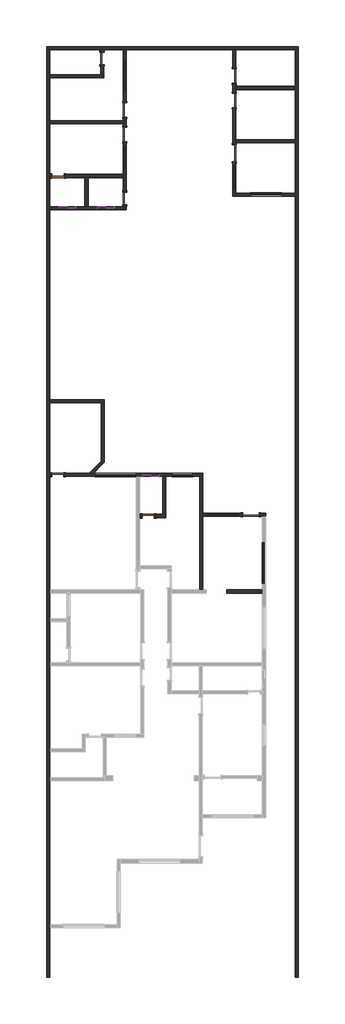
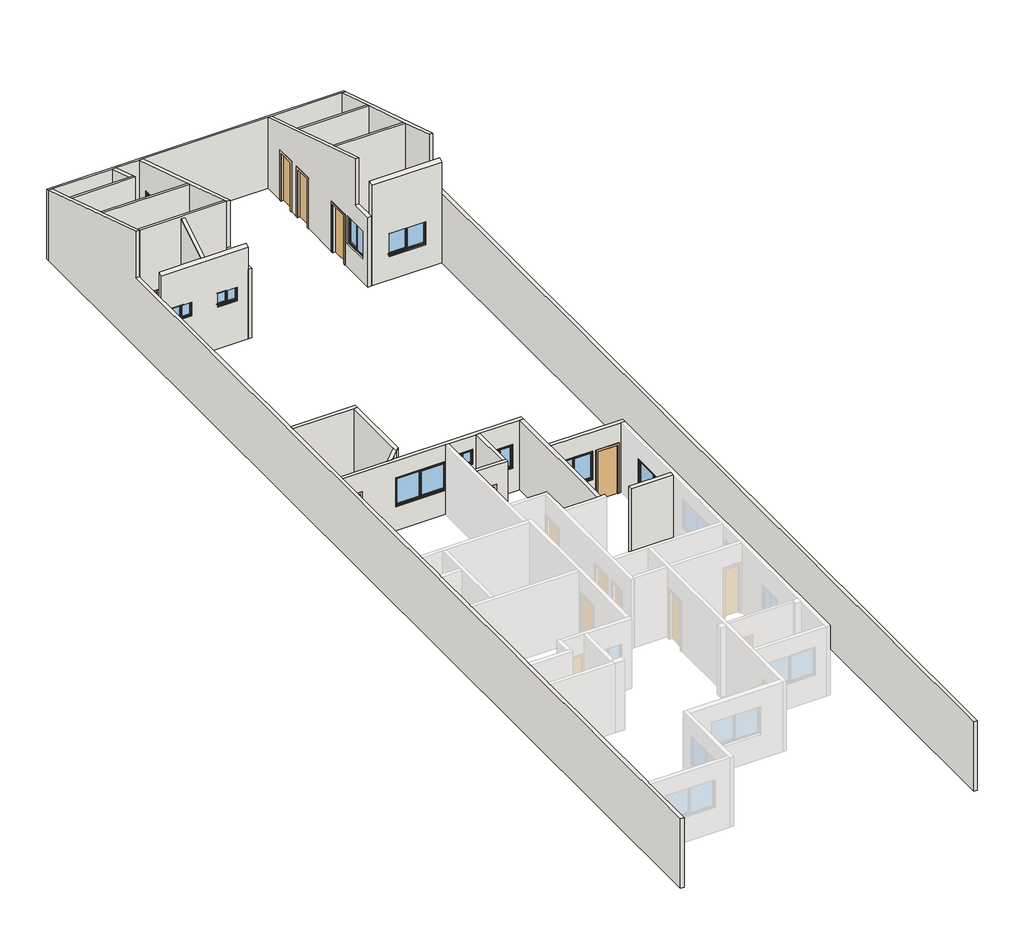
# One storey, part 2 of 2: 23 walls, 11 doors, 11 windows.
"""IFC4 building model written with IfcOpenShell, lengths in millimetres."""

from ifc_helpers import new_model, si_unit, frame, origin, origin_with_axes, place, context, project, spatial, polyline, outline, extrude, faceted_brep, transform, mapped, element, save
from components import door_0_60x2_10_8e608217, door_0_60x2_10_a66e64d3, door_0_70x2_10_1d7fae46, door_0_70x2_10_6c6cf384, door_0_80x2_10_8bd717ab, item_01_2f_janela_de_correr_aluminium_b1_a633d3a6, item_01_2f_janela_de_correr_aluminium_j1_3e6ac885, item_01_2f_janela_de_correr_aluminium_j3_e0c3c169, item_01_2f_janela_de_correr_aluminium_j4_4bfe350a, item_01_2f_janela_de_correr_aluminium_j7_2dec2369, item_01_2f_janela_de_correr_aluminium_j8_21b325f3, item_01_2f_janela_de_correr_aluminium_j9_3c347c91

model = new_model("IFC4")

# Units and contexts
model_context = context("Model", 3, world=origin())
ifc_project = project(units=[si_unit("LENGTHUNIT", "METRE", prefix="MILLI")], contexts=[model_context])

# Site, building, storey
site = spatial("IfcSite", under=ifc_project)
building = spatial("IfcBuilding", under=site)
storey = spatial("IfcBuildingStorey", under=building, Name="Nível 1", Elevation=0.0)

# Doors
placement = place(None, origin())
door_0_60x2_10_shape = door_0_60x2_10_8e608217(model_context)
element("IfcDoor", 1, ObjectType="M_Folha única : 0.60X2.10", at=placement, inside=storey, context=model_context, shape_type="MappedRepresentation", body=[
    mapped(door_0_60x2_10_shape, transform((-1047.7973629, 534.7160701, 0.0), x_axis=(-1.0, 0.0, 0.0), y_axis=(0.0, -1.0, 0.0), z_axis=(0.0, 0.0, 1.0))),
])
element("IfcDoor", 2, ObjectType="M_Folha única : 0.60X2.10", at=placement, inside=storey, context=model_context, shape_type="MappedRepresentation", body=[
    mapped(door_0_60x2_10_shape, transform((-5407.7973629, 2514.7160701, 0.0), x_axis=(-1.0, 0.0, 0.0), y_axis=(0.0, -1.0, 0.0), z_axis=(0.0, 0.0, 1.0))),
])
element("IfcDoor", 3, ObjectType="M_Folha única : 0.60X2.10", at=placement, inside=storey, context=model_context, shape_type="MappedRepresentation", body=[
    mapped(door_0_60x2_10_shape, transform((-2172.7973629, 15839.7160701, 0.0), x_axis=(0.0, -1.0, 0.0), y_axis=(1.0, 0.0, 0.0), z_axis=(0.0, 0.0, 1.0))),
])
door_0_60x2_10_2_shape = door_0_60x2_10_a66e64d3(model_context)
element("IfcDoor", 4, ObjectType="M_Folha única : 0.60X2.10", at=placement, inside=storey, context=model_context, shape_type="MappedRepresentation", body=[
    mapped(door_0_60x2_10_2_shape, transform((-5392.7973629, 16914.7160701, 0.0), x_axis=(-1.0, 0.0, 0.0), y_axis=(0.0, -1.0, 0.0), z_axis=(0.0, 0.0, 1.0))),
])
element("IfcDoor", 5, ObjectType="M_Folha única : 0.60X2.10", at=placement, inside=storey, context=model_context, shape_type="MappedRepresentation", body=[
    mapped(door_0_60x2_10_2_shape, transform((-3272.7973629, 22574.7160701, 0.0), x_axis=(0.0, 1.0, 0.0), y_axis=(-1.0, 0.0, 0.0), z_axis=(0.0, 0.0, 1.0))),
])
door_0_70x2_10_shape = door_0_70x2_10_1d7fae46(model_context)
element("IfcDoor", 6, ObjectType="M_Folha única : 0.70X2.10", at=placement, inside=storey, context=model_context, shape_type="MappedRepresentation", body=[
    mapped(door_0_70x2_10_shape, transform((3087.2026371, 21719.7160701, 0.0), x_axis=(0.0, -1.0, 0.0), y_axis=(1.0, 0.0, 0.0), z_axis=(0.0, 0.0, 1.0))),
])
element("IfcDoor", 7, ObjectType="M_Folha única : 0.70X2.10", at=placement, inside=storey, context=model_context, shape_type="MappedRepresentation", body=[
    mapped(door_0_70x2_10_shape, transform((-2172.7973629, 18919.7160701, 0.0), x_axis=(0.0, 1.0, 0.0), y_axis=(-1.0, 0.0, 0.0), z_axis=(0.0, 0.0, 1.0))),
])
door_0_70x2_10_2_shape = door_0_70x2_10_6c6cf384(model_context)
element("IfcDoor", 8, ObjectType="M_Folha única : 0.70X2.10", at=placement, inside=storey, context=model_context, shape_type="MappedRepresentation", body=[
    mapped(door_0_70x2_10_2_shape, transform((3087.2026371, 20549.7160701, 0.0), x_axis=(0.0, 1.0, 0.0), y_axis=(-1.0, 0.0, 0.0), z_axis=(0.0, 0.0, 1.0))),
])
element("IfcDoor", 9, ObjectType="M_Folha única : 0.70X2.10", at=placement, inside=storey, context=model_context, shape_type="MappedRepresentation", body=[
    mapped(door_0_70x2_10_2_shape, transform((-2172.7973629, 20089.7160701, 0.0), x_axis=(0.0, -1.0, 0.0), y_axis=(1.0, 0.0, 0.0), z_axis=(0.0, 0.0, 1.0))),
])
door_0_80x2_10_shape = door_0_80x2_10_8bd717ab(model_context)
element("IfcDoor", 10, ObjectType="M_Folha única : 0.80X2.10", at=placement, inside=storey, context=model_context, shape_type="MappedRepresentation", body=[
    mapped(door_0_80x2_10_shape, transform((3087.2026371, 18009.7160701, 0.0), x_axis=(0.0, 1.0, 0.0), y_axis=(-1.0, 0.0, 0.0), z_axis=(0.0, 0.0, 1.0))),
])
element("IfcDoor", 11, ObjectType="M_Folha única : 0.80X2.10", at=placement, inside=storey, context=model_context, shape_type="MappedRepresentation", body=[
    mapped(door_0_80x2_10_shape, transform((3892.2026371, 594.7160701, 0.0), x_axis=(1.0, 0.0, 0.0), y_axis=(0.0, 1.0, 0.0), z_axis=(0.0, 0.0, 1.0))),
])

# Walls
element("IfcWall", 12, ObjectType="PAREDE ALVENARIA", at=placement, inside=storey, context=model_context, shape_type="Brep", body=[
    faceted_brep([(-2247.7973629, 19739.7160701, 0.0), (-2247.7973629, 19579.7160701, 0.0), (-2247.7973629, 19429.7160701, 0.0), (-2247.7973629, 19269.7160701, 0.0), (-2247.7973629, 19269.7160701, 2100.0), (-2247.7973629, 18569.7160701, 2100.0), (-2247.7973629, 18569.7160701, 0.0), (-2247.7973629, 16989.7160701, 0.0), (-2247.7973629, 16839.7160701, 0.0), (-2247.7973629, 16139.7160701, 0.0), (-2247.7973629, 16139.7160701, 2100.0), (-2247.7973629, 15539.7160701, 2100.0), (-2247.7973629, 15539.7160701, 0.0), (-2247.7973629, 15439.7160701, 0.0), (-2247.7973629, 15289.7160701, 0.0), (-2247.7973629, 15289.7160701, 3000.0), (-2247.7973629, 16839.7160701, 3000.0), (-2247.7973629, 16839.7160701, 5000.0), (-2247.7973629, 16989.7160701, 4952.4564184), (-2247.7973629, 19429.7160701, 4179.0808241), (-2247.7973629, 19579.7160701, 4131.5372425), (-2247.7973629, 22999.7160701, 3047.5435816), (-2247.7973629, 22999.7160701, 0.0), (-2247.7973629, 20439.7160701, 0.0), (-2247.7973629, 20439.7160701, 2100.0), (-2247.7973629, 19739.7160701, 2100.0), (-2247.7973629, 22507.2160701, 1000.0), (-2247.7973629, 22507.2160701, 2000.0), (-2247.7973629, 21007.2160701, 2000.0), (-2247.7973629, 21007.2160701, 1000.0), (-2247.7973629, 18329.7160701, 1000.0), (-2247.7973629, 18329.7160701, 2000.0), (-2247.7973629, 17229.7160701, 2000.0), (-2247.7973629, 17229.7160701, 1000.0), (-2097.7973629, 19269.7160701, 2100.0), (-2097.7973629, 19269.7160701, 0.0), (-2097.7973629, 19739.7160701, 0.0), (-2097.7973629, 19739.7160701, 2100.0), (-2097.7973629, 20439.7160701, 2100.0), (-2097.7973629, 20439.7160701, 0.0), (-2097.7973629, 22999.7160701, 0.0), (-2097.7973629, 22999.7160701, 3047.5435816), (-2097.7973629, 16839.7160701, 5000.0), (-2097.7973629, 16839.7160701, 3000.0), (-2097.7973629, 15289.7160701, 3000.0), (-2097.7973629, 15289.7160701, 0.0), (-2097.7973629, 15539.7160701, 0.0), (-2097.7973629, 15539.7160701, 2100.0), (-2097.7973629, 16139.7160701, 2100.0), (-2097.7973629, 16139.7160701, 0.0), (-2097.7973629, 18569.7160701, 0.0), (-2097.7973629, 18569.7160701, 2100.0), (-2097.7973629, 22507.2160701, 1000.0), (-2097.7973629, 21007.2160701, 1000.0), (-2097.7973629, 21007.2160701, 2000.0), (-2097.7973629, 22507.2160701, 2000.0), (-2097.7973629, 18329.7160701, 1000.0), (-2097.7973629, 17229.7160701, 1000.0), (-2097.7973629, 17229.7160701, 2000.0), (-2097.7973629, 18329.7160701, 2000.0)], [[[0, 1, 2, 3, 4, 5, 6, 7, 8, 9, 10, 11, 12, 13, 14, 15, 16, 17, 18, 19, 20, 21, 22, 23, 24, 25], [26, 27, 28, 29], [30, 31, 32, 33]], [[34, 35, 36, 37, 38, 39, 40, 41, 42, 43, 44, 45, 46, 47, 48, 49, 50, 51], [52, 53, 54, 55], [56, 57, 58, 59]], [[14, 13, 12, 46, 45]], [[23, 22, 40, 39]], [[50, 49, 9, 8, 7, 6]], [[36, 35, 3, 2, 1, 0]], [[15, 14, 45, 44]], [[47, 46, 12, 11]], [[48, 47, 11, 10]], [[49, 48, 10, 9]], [[37, 36, 0, 25]], [[38, 37, 25, 24]], [[39, 38, 24, 23]], [[4, 3, 35, 34]], [[5, 4, 34, 51]], [[6, 5, 51, 50]], [[27, 26, 52, 55]], [[28, 27, 55, 54]], [[29, 28, 54, 53]], [[26, 29, 53, 52]], [[31, 30, 56, 59]], [[32, 31, 59, 58]], [[33, 32, 58, 57]], [[30, 33, 57, 56]], [[22, 21, 41, 40]], [[16, 15, 44, 43]], [[16, 43, 42, 17]], [[21, 20, 19, 18, 17, 42, 41]]]),
])
element("IfcWall", 13, ObjectType="PAREDE ALVENARIA", at=placement, inside=storey, context=model_context, shape_type="Brep", body=[
    faceted_brep([(-2247.7973629, 15439.7160701, 0.0), (-3947.7973629, 15439.7160701, 0.0), (-4097.7973629, 15439.7160701, 0.0), (-5797.7973629, 15439.7160701, 0.0), (-5797.7973629, 15439.7160701, 4041.7674419), (-4097.7973629, 15439.7160701, 4041.7674419), (-3947.7973629, 15439.7160701, 4041.7674419), (-2247.7973629, 15439.7160701, 4041.7674419), (-2697.7973629, 15439.7160701, 1800.0), (-2697.7973629, 15439.7160701, 2400.0), (-3497.7973629, 15439.7160701, 2400.0), (-3497.7973629, 15439.7160701, 1800.0), (-4547.7973629, 15439.7160701, 1800.0), (-4547.7973629, 15439.7160701, 2400.0), (-5347.7973629, 15439.7160701, 2400.0), (-5347.7973629, 15439.7160701, 1800.0), (-2247.7973629, 15289.7160701, 0.0), (-2247.7973629, 15289.7160701, 3000.0), (-2247.7973629, 15289.7160701, 3949.8139535), (-5797.7973629, 15289.7160701, 3949.8139535), (-5797.7973629, 15289.7160701, 0.0), (-2697.7973629, 15289.7160701, 1800.0), (-3497.7973629, 15289.7160701, 1800.0), (-3497.7973629, 15289.7160701, 2400.0), (-2697.7973629, 15289.7160701, 2400.0), (-4547.7973629, 15289.7160701, 1800.0), (-5347.7973629, 15289.7160701, 1800.0), (-5347.7973629, 15289.7160701, 2400.0), (-4547.7973629, 15289.7160701, 2400.0)], [[[0, 1, 2, 3, 4, 5, 6, 7], [8, 9, 10, 11], [12, 13, 14, 15]], [[16, 17, 18, 19, 20], [21, 22, 23, 24], [25, 26, 27, 28]], [[3, 2, 1, 0, 16, 20]], [[0, 7, 18, 17, 16]], [[4, 3, 20, 19]], [[9, 8, 21, 24]], [[10, 9, 24, 23]], [[11, 10, 23, 22]], [[8, 11, 22, 21]], [[13, 12, 25, 28]], [[14, 13, 28, 27]], [[15, 14, 27, 26]], [[12, 15, 26, 25]], [[7, 6, 5, 4, 19, 18]]]),
])
element("IfcWall", 14, ObjectType="PAREDE ALVENARIA", at=placement, inside=storey, context=model_context, shape_type="Brep", body=[
    faceted_brep([(-5792.7973629, 16839.7160701, 0.0), (-5692.7973629, 16839.7160701, 0.0), (-5692.7973629, 16839.7160701, 2100.0), (-5092.7973629, 16839.7160701, 2100.0), (-5092.7973629, 16839.7160701, 0.0), (-4097.7973629, 16839.7160701, 0.0), (-3947.7973629, 16839.7160701, 0.0), (-2247.7973629, 16839.7160701, 0.0), (-2247.7973629, 16839.7160701, 3000.0), (-2247.7973629, 16839.7160701, 5000.0), (-5792.7973629, 16839.7160701, 5000.0), (-5692.7973629, 16989.7160701, 2100.0), (-5692.7973629, 16989.7160701, 0.0), (-5792.7973629, 16989.7160701, 0.0), (-5792.7973629, 16989.7160701, 4952.4564184), (-2247.7973629, 16989.7160701, 4952.4564184), (-2247.7973629, 16989.7160701, 0.0), (-5092.7973629, 16989.7160701, 0.0), (-5092.7973629, 16989.7160701, 2100.0)], [[[0, 1, 2, 3, 4, 5, 6, 7, 8, 9, 10]], [[11, 12, 13, 14, 15, 16, 17, 18]], [[17, 16, 7, 6, 5, 4]], [[13, 12, 1, 0]], [[0, 10, 14, 13]], [[9, 8, 7, 16, 15]], [[2, 1, 12, 11]], [[3, 2, 11, 18]], [[4, 3, 18, 17]], [[10, 9, 15, 14]]]),
])
element("IfcWall", 15, ObjectType="PAREDE ALVENARIA", at=placement, inside=storey, context=model_context, shape_type="SweptSolid", body=[
    extrude(outline(polyline([(15439.7160701, 0.0), (15439.7160701, 4041.7674419), (16839.7160701, 4900.0), (16839.7160701, 0.0), (15439.7160701, 0.0)])), frame((-4097.7973629, 0.0, 0.0), z_axis=(1.0, 0.0, 0.0), x_axis=(0.0, 1.0, 0.0)), (0.0, 0.0, 1.0), 150.0),
])
element("IfcWall", 16, ObjectType="PAREDE ALVENARIA", at=placement, inside=storey, context=model_context, shape_type="SweptSolid", body=[
    extrude(outline(polyline([(19429.7160701, 0.0), (19429.7160701, 4179.0808241), (19579.7160701, 4131.5372425), (19579.7160701, 0.0), (19429.7160701, 0.0)])), frame((-5797.7973629, 0.0, 0.0), z_axis=(1.0, 0.0, 0.0), x_axis=(0.0, 1.0, 0.0)), (0.0, 0.0, 1.0), 3550.0),
])
element("IfcWall", 17, ObjectType="PAREDE ALVENARIA", at=placement, inside=storey, context=model_context, shape_type="Brep", body=[
    faceted_brep([(-5797.7973629, 21639.7160701, 0.0), (-3197.7973629, 21639.7160701, 0.0), (-3197.7973629, 21639.7160701, 3478.6053883), (-5797.7973629, 21639.7160701, 3478.6053883), (-5797.7973629, 21789.7160701, 0.0), (-5797.7973629, 21789.7160701, 3431.0618067), (-3347.7973629, 21789.7160701, 3431.0618067), (-3197.7973629, 21789.7160701, 3431.0618067), (-3197.7973629, 21789.7160701, 0.0), (-3347.7973629, 21789.7160701, 0.0)], [[[0, 1, 2, 3]], [[4, 5, 6, 7, 8, 9]], [[1, 0, 4, 9, 8]], [[2, 1, 8, 7]], [[0, 3, 5, 4]], [[3, 2, 7, 6, 5]]]),
])
element("IfcWall", 18, ObjectType="PAREDE ALVENARIA", at=placement, inside=storey, context=model_context, shape_type="SweptSolid", body=[
    extrude(outline(polyline([(22999.7160701, 0.0), (22874.7160701, 0.0), (22874.7160701, 2100.0), (22274.7160701, 2100.0), (22274.7160701, 0.0), (21789.7160701, 0.0), (21789.7160701, 3431.0618067), (22999.7160701, 3047.5435816), (22999.7160701, 0.0)])), frame((-3347.7973629, 0.0, 0.0), z_axis=(1.0, 0.0, 0.0), x_axis=(0.0, 1.0, 0.0)), (0.0, 0.0, 1.0), 150.0),
])
element("IfcWall", 19, ObjectType="PAREDE ALVENARIA", at=placement, inside=storey, context=model_context, shape_type="Brep", body=[
    faceted_brep([(3012.2026371, 21369.7160701, 0.0), (3012.2026371, 20899.7160701, 0.0), (3012.2026371, 20899.7160701, 2100.0), (3012.2026371, 20199.7160701, 2100.0), (3012.2026371, 20199.7160701, 0.0), (3012.2026371, 18409.7160701, 0.0), (3012.2026371, 18409.7160701, 2100.0), (3012.2026371, 17609.7160701, 2100.0), (3012.2026371, 17609.7160701, 0.0), (3012.2026371, 15939.7160701, 0.0), (3012.2026371, 15939.7160701, 3000.0), (3012.2026371, 16839.7160701, 3000.0), (3012.2026371, 16839.7160701, 5000.0), (3012.2026371, 22999.7160701, 3047.5435816), (3012.2026371, 22999.7160701, 0.0), (3012.2026371, 22069.7160701, 0.0), (3012.2026371, 22069.7160701, 2100.0), (3012.2026371, 21369.7160701, 2100.0), (3012.2026371, 16299.7160701, 1000.0), (3012.2026371, 17399.7160701, 1000.0), (3012.2026371, 17399.7160701, 2200.0), (3012.2026371, 16299.7160701, 2200.0), (3162.2026371, 20899.7160701, 2100.0), (3162.2026371, 20899.7160701, 0.0), (3162.2026371, 21079.7160701, 0.0), (3162.2026371, 21229.7160701, 0.0), (3162.2026371, 21369.7160701, 0.0), (3162.2026371, 21369.7160701, 2100.0), (3162.2026371, 22069.7160701, 2100.0), (3162.2026371, 22069.7160701, 0.0), (3162.2026371, 22999.7160701, 0.0), (3162.2026371, 22999.7160701, 3047.5435816), (3162.2026371, 21229.7160701, 3608.5578447), (3162.2026371, 21079.7160701, 3656.1014263), (3162.2026371, 18659.7160701, 4423.1378764), (3162.2026371, 18509.7160701, 4470.681458), (3162.2026371, 16839.7160701, 5000.0), (3162.2026371, 16839.7160701, 3000.0), (3162.2026371, 15939.7160701, 3000.0), (3162.2026371, 15939.7160701, 0.0), (3162.2026371, 16089.7160701, 0.0), (3162.2026371, 17609.7160701, 0.0), (3162.2026371, 17609.7160701, 2100.0), (3162.2026371, 18409.7160701, 2100.0), (3162.2026371, 18409.7160701, 0.0), (3162.2026371, 18509.7160701, 0.0), (3162.2026371, 18659.7160701, 0.0), (3162.2026371, 20199.7160701, 0.0), (3162.2026371, 20199.7160701, 2100.0), (3162.2026371, 16299.7160701, 1000.0), (3162.2026371, 16299.7160701, 2200.0), (3162.2026371, 17399.7160701, 2200.0), (3162.2026371, 17399.7160701, 1000.0)], [[[0, 1, 2, 3, 4, 5, 6, 7, 8, 9, 10, 11, 12, 13, 14, 15, 16, 17], [18, 19, 20, 21]], [[22, 23, 24, 25, 26, 27, 28, 29, 30, 31, 32, 33, 34, 35, 36, 37, 38, 39, 40, 41, 42, 43, 44, 45, 46, 47, 48], [49, 50, 51, 52]], [[41, 40, 39, 9, 8]], [[15, 14, 30, 29]], [[47, 46, 45, 44, 5, 4]], [[26, 25, 24, 23, 1, 0]], [[10, 9, 39, 38]], [[6, 5, 44, 43]], [[7, 6, 43, 42]], [[8, 7, 42, 41]], [[27, 26, 0, 17]], [[28, 27, 17, 16]], [[29, 28, 16, 15]], [[2, 1, 23, 22]], [[3, 2, 22, 48]], [[4, 3, 48, 47]], [[50, 49, 18, 21]], [[51, 50, 21, 20]], [[52, 51, 20, 19]], [[49, 52, 19, 18]], [[14, 13, 31, 30]], [[11, 10, 38, 37]], [[11, 37, 36, 12]], [[13, 12, 36, 35, 34, 33, 32, 31]]]),
])
element("IfcWall", 20, ObjectType="PAREDE ALVENARIA", at=placement, inside=storey, context=model_context, shape_type="Brep", body=[
    faceted_brep([(3162.2026371, 15939.7160701, 0.0), (6032.2026371, 15939.7160701, 0.0), (6032.2026371, 15939.7160701, 4348.2790698), (3162.2026371, 15939.7160701, 4348.2790698), (3162.2026371, 15939.7160701, 3000.0), (5384.7026371, 15939.7160701, 1000.0), (3884.7026371, 15939.7160701, 1000.0), (3884.7026371, 15939.7160701, 2000.0), (5384.7026371, 15939.7160701, 2000.0), (3162.2026371, 16089.7160701, 0.0), (3162.2026371, 16089.7160701, 4440.2325581), (6032.2026371, 16089.7160701, 4440.2325581), (6032.2026371, 16089.7160701, 0.0), (5384.7026371, 16089.7160701, 1000.0), (5384.7026371, 16089.7160701, 2000.0), (3884.7026371, 16089.7160701, 2000.0), (3884.7026371, 16089.7160701, 1000.0)], [[[0, 1, 2, 3, 4], [5, 6, 7, 8]], [[9, 10, 11, 12], [13, 14, 15, 16]], [[1, 0, 9, 12]], [[0, 4, 3, 10, 9]], [[14, 13, 5, 8]], [[15, 14, 8, 7]], [[16, 15, 7, 6]], [[13, 16, 6, 5]], [[2, 1, 12, 11]], [[3, 2, 11, 10]]]),
])
element("IfcWall", 21, ObjectType="PAREDE ALVENARIA", at=placement, inside=storey, context=model_context, shape_type="SweptSolid", body=[
    extrude(outline(polyline([(18659.7160701, 4423.1378764), (18659.7160701, 0.0), (18509.7160701, 0.0), (18509.7160701, 4470.681458), (18659.7160701, 4423.1378764)])), frame((3162.2026371, 0.0, 0.0), z_axis=(1.0, 0.0, 0.0), x_axis=(0.0, 1.0, 0.0)), (0.0, 0.0, 1.0), 2870.0),
])
element("IfcWall", 22, ObjectType="PAREDE ALVENARIA", at=placement, inside=storey, context=model_context, shape_type="SweptSolid", body=[
    extrude(outline(polyline([(21229.7160701, 3608.5578447), (21229.7160701, 0.0), (21079.7160701, 0.0), (21079.7160701, 3656.1014263), (21229.7160701, 3608.5578447)])), frame((3162.2026371, 0.0, 0.0), z_axis=(1.0, 0.0, 0.0), x_axis=(0.0, 1.0, 0.0)), (0.0, 0.0, 1.0), 2870.0),
])
element("IfcWall", 23, ObjectType="PAREDE ALVENARIA", at=placement, inside=storey, context=model_context, shape_type="Brep", body=[
    faceted_brep([(-5797.7973629, 5989.7160701, 0.0), (-3307.7973629, 5989.7160701, 0.0), (-3157.7973629, 5989.7160701, 0.0), (-3157.7973629, 5989.7160701, 3000.0), (-3307.7973629, 5989.7160701, 3000.0), (-5797.7973629, 5989.7160701, 3000.0), (-5797.7973629, 6139.7160701, 0.0), (-5797.7973629, 6139.7160701, 3000.0), (-3157.7973629, 6139.7160701, 3000.0), (-3157.7973629, 6139.7160701, 0.0)], [[[0, 1, 2, 3, 4, 5]], [[6, 7, 8, 9]], [[2, 1, 0, 6, 9]], [[5, 4, 3, 8, 7]], [[3, 2, 9, 8]], [[0, 5, 7, 6]]]),
])
element("IfcWall", 24, ObjectType="PAREDE ALVENARIA", at=placement, inside=storey, context=model_context, shape_type="Brep", body=[
    faceted_brep([(-3307.7973629, 5989.7160701, 0.0), (-3307.7973629, 3179.7160701, 0.0), (-3307.7973629, 2967.5840358, 0.0), (-3307.7973629, 2967.5840358, 3000.0), (-3307.7973629, 3179.7160701, 3000.0), (-3307.7973629, 5989.7160701, 3000.0), (-3157.7973629, 5989.7160701, 0.0), (-3157.7973629, 5989.7160701, 3000.0), (-3157.7973629, 3117.5840358, 3000.0), (-3157.7973629, 3117.5840358, 0.0)], [[[0, 1, 2, 3, 4, 5]], [[6, 7, 8, 9]], [[2, 1, 0, 6, 9]], [[5, 4, 3, 8, 7]], [[0, 5, 7, 6]], [[3, 2, 9, 8]]]),
])
element("IfcWall", 25, ObjectType="PAREDE ALVENARIA", at=placement, inside=storey, context=model_context, shape_type="SweptSolid", body=[
    extrude(outline(polyline([(-3897.7973629, 2589.7160701), (-3307.7973629, 3179.7160701), (-3307.7973629, 2967.5840358), (-3685.6653285, 2589.7160701), (-3897.7973629, 2589.7160701)])), origin_with_axes(), (0.0, 0.0, 1.0), 3000.0),
])
element("IfcWall", 26, ObjectType="PAREDE ALVENARIA", at=placement, inside=storey, context=model_context, shape_type="Brep", body=[
    faceted_brep([(-5797.7973629, 2439.7160701, 0.0), (-5707.7973629, 2439.7160701, 0.0), (-5707.7973629, 2439.7160701, 2100.0), (-5107.7973629, 2439.7160701, 2100.0), (-5107.7973629, 2439.7160701, 0.0), (-1617.7973629, 2439.7160701, 0.0), (-1467.7973629, 2439.7160701, 0.0), (-357.7973629, 2439.7160701, 0.0), (-207.7973629, 2439.7160701, 0.0), (1422.2026371, 2439.7160701, 0.0), (1572.2026371, 2439.7160701, 0.0), (1572.2026371, 2439.7160701, 3000.0), (1422.2026371, 2439.7160701, 3000.0), (-207.7973629, 2439.7160701, 3000.0), (-357.7973629, 2439.7160701, 3000.0), (-1467.7973629, 2439.7160701, 3000.0), (-1617.7973629, 2439.7160701, 3000.0), (-5797.7973629, 2439.7160701, 3000.0), (-3617.7973629, 2439.7160701, 1060.0), (-3617.7973629, 2439.7160701, 2260.0), (-1617.7973629, 2439.7160701, 2260.0), (-1617.7973629, 2439.7160701, 1060.0), (107.2026371, 2439.7160701, 1040.0), (107.2026371, 2439.7160701, 2040.0), (1107.2026371, 2439.7160701, 2040.0), (1107.2026371, 2439.7160701, 1040.0), (-1312.7973629, 2439.7160701, 1800.0), (-1312.7973629, 2439.7160701, 2400.0), (-512.7973629, 2439.7160701, 2400.0), (-512.7973629, 2439.7160701, 1800.0), (-5707.7973629, 2589.7160701, 2100.0), (-5707.7973629, 2589.7160701, 0.0), (-5797.7973629, 2589.7160701, 0.0), (-5797.7973629, 2589.7160701, 3000.0), (-3897.7973629, 2589.7160701, 3000.0), (-3685.6653285, 2589.7160701, 3000.0), (1572.2026371, 2589.7160701, 3000.0), (1572.2026371, 2589.7160701, 0.0), (-3685.6653285, 2589.7160701, 0.0), (-3897.7973629, 2589.7160701, 0.0), (-5107.7973629, 2589.7160701, 0.0), (-5107.7973629, 2589.7160701, 2100.0), (-3617.7973629, 2589.7160701, 1060.0), (-1617.7973629, 2589.7160701, 1060.0), (-1617.7973629, 2589.7160701, 2260.0), (-3617.7973629, 2589.7160701, 2260.0), (107.2026371, 2589.7160701, 1040.0), (1107.2026371, 2589.7160701, 1040.0), (1107.2026371, 2589.7160701, 2040.0), (107.2026371, 2589.7160701, 2040.0), (-1312.7973629, 2589.7160701, 1800.0), (-512.7973629, 2589.7160701, 1800.0), (-512.7973629, 2589.7160701, 2400.0), (-1312.7973629, 2589.7160701, 2400.0)], [[[0, 1, 2, 3, 4, 5, 6, 7, 8, 9, 10, 11, 12, 13, 14, 15, 16, 17], [18, 19, 20, 21], [22, 23, 24, 25], [26, 27, 28, 29]], [[30, 31, 32, 33, 34, 35, 36, 37, 38, 39, 40, 41], [42, 43, 44, 45], [46, 47, 48, 49], [50, 51, 52, 53]], [[32, 31, 1, 0]], [[40, 39, 38, 37, 10, 9, 8, 7, 6, 5, 4]], [[17, 16, 15, 14, 13, 12, 11, 36, 35, 34, 33]], [[11, 10, 37, 36]], [[2, 1, 31, 30]], [[3, 2, 30, 41]], [[4, 3, 41, 40]], [[19, 18, 42, 45]], [[20, 19, 45, 44]], [[21, 20, 44, 43]], [[18, 21, 43, 42]], [[23, 22, 46, 49]], [[24, 23, 49, 48]], [[25, 24, 48, 47]], [[22, 25, 47, 46]], [[0, 17, 33, 32]], [[27, 26, 50, 53]], [[28, 27, 53, 52]], [[29, 28, 52, 51]], [[26, 29, 51, 50]]]),
])
element("IfcWall", 27, ObjectType="PAREDE ALVENARIA", at=placement, inside=storey, context=model_context, shape_type="Brep", body=[
    faceted_brep([(1422.2026371, 2439.7160701, 0.0), (1422.2026371, -3030.2839299, 0.0), (1422.2026371, -3030.2839299, 3000.0), (1422.2026371, 2439.7160701, 3000.0), (1572.2026371, 2439.7160701, 0.0), (1572.2026371, 2439.7160701, 3000.0), (1572.2026371, 669.7160701, 3000.0), (1572.2026371, 519.7160701, 3000.0), (1572.2026371, -3030.2839299, 3000.0), (1572.2026371, -3030.2839299, 0.0), (1572.2026371, 519.7160701, 0.0), (1572.2026371, 669.7160701, 0.0)], [[[0, 1, 2, 3]], [[4, 5, 6, 7, 8, 9, 10, 11]], [[1, 0, 4, 11, 10, 9]], [[3, 2, 8, 7, 6, 5]], [[0, 3, 5, 4]], [[2, 1, 9, 8]]]),
])
element("IfcWall", 28, ObjectType="PAREDE ALVENARIA", at=placement, inside=storey, context=model_context, shape_type="Brep", body=[
    faceted_brep([(4292.2026371, 519.7160701, 2100.0), (4292.2026371, 519.7160701, 0.0), (4452.2026371, 519.7160701, 0.0), (4602.2026371, 519.7160701, 0.0), (4602.2026371, 519.7160701, 3000.0), (4452.2026371, 519.7160701, 3000.0), (1572.2026371, 519.7160701, 3000.0), (1572.2026371, 519.7160701, 0.0), (3492.2026371, 519.7160701, 0.0), (3492.2026371, 519.7160701, 2100.0), (1782.2026371, 519.7160701, 960.0), (1782.2026371, 519.7160701, 2160.0), (3282.2026371, 519.7160701, 2160.0), (3282.2026371, 519.7160701, 960.0), (4602.2026371, 669.7160701, 0.0), (4292.2026371, 669.7160701, 0.0), (4292.2026371, 669.7160701, 2100.0), (3492.2026371, 669.7160701, 2100.0), (3492.2026371, 669.7160701, 0.0), (1572.2026371, 669.7160701, 0.0), (1572.2026371, 669.7160701, 3000.0), (4602.2026371, 669.7160701, 3000.0), (1782.2026371, 669.7160701, 960.0), (3282.2026371, 669.7160701, 960.0), (3282.2026371, 669.7160701, 2160.0), (1782.2026371, 669.7160701, 2160.0)], [[[0, 1, 2, 3, 4, 5, 6, 7, 8, 9], [10, 11, 12, 13]], [[14, 15, 16, 17, 18, 19, 20, 21], [22, 23, 24, 25]], [[8, 7, 19, 18]], [[3, 2, 1, 15, 14]], [[6, 5, 4, 21, 20]], [[7, 6, 20, 19]], [[4, 3, 14, 21]], [[16, 15, 1, 0]], [[17, 16, 0, 9]], [[18, 17, 9, 8]], [[11, 10, 22, 25]], [[12, 11, 25, 24]], [[13, 12, 24, 23]], [[10, 13, 23, 22]]]),
])
element("IfcWall", 29, ObjectType="PAREDE ALVENARIA", at=placement, inside=storey, context=model_context, shape_type="Brep", body=[
    faceted_brep([(-1467.7973629, 459.7160701, 0.0), (-1347.7973629, 459.7160701, 0.0), (-1347.7973629, 459.7160701, 2100.0), (-747.7973629, 459.7160701, 2100.0), (-747.7973629, 459.7160701, 0.0), (-207.7973629, 459.7160701, 0.0), (-207.7973629, 459.7160701, 3000.0), (-1467.7973629, 459.7160701, 3000.0), (-1347.7973629, 609.7160701, 2100.0), (-1347.7973629, 609.7160701, 0.0), (-1467.7973629, 609.7160701, 0.0), (-1467.7973629, 609.7160701, 3000.0), (-357.7973629, 609.7160701, 3000.0), (-207.7973629, 609.7160701, 3000.0), (-207.7973629, 609.7160701, 0.0), (-357.7973629, 609.7160701, 0.0), (-747.7973629, 609.7160701, 0.0), (-747.7973629, 609.7160701, 2100.0)], [[[0, 1, 2, 3, 4, 5, 6, 7]], [[8, 9, 10, 11, 12, 13, 14, 15, 16, 17]], [[10, 9, 1, 0]], [[16, 15, 14, 5, 4]], [[7, 6, 13, 12, 11]], [[0, 7, 11, 10]], [[6, 5, 14, 13]], [[2, 1, 9, 8]], [[3, 2, 8, 17]], [[4, 3, 17, 16]]]),
])
element("IfcWall", 30, ObjectType="PAREDE ALVENARIA", at=placement, inside=storey, context=model_context, shape_type="SweptSolid", body=[
    extrude(outline(polyline([(-207.7973629, 2439.7160701), (-207.7973629, 609.7160701), (-357.7973629, 609.7160701), (-357.7973629, 2439.7160701), (-207.7973629, 2439.7160701)])), origin_with_axes(), (0.0, 0.0, 1.0), 3000.0),
])
element("IfcWall", 31, ObjectType="PAREDE ALVENARIA", at=placement, inside=storey, context=model_context, shape_type="SweptSolid", body=[
    extrude(outline(polyline([(4452.2026371, -3180.2839299), (2722.2026371, -3180.2839299), (2722.2026371, -3030.2839299), (4452.2026371, -3030.2839299), (4452.2026371, -3180.2839299)])), origin_with_axes(), (0.0, 0.0, 1.0), 3000.0),
])
element("IfcWall", 32, ObjectType="PAREDE ALVENARIA", at=placement, inside=storey, context=model_context, shape_type="Brep", body=[
    faceted_brep([(-5947.7973629, 22999.7160701, 0.0), (-5797.7973629, 22999.7160701, 0.0), (-3347.7973629, 22999.7160701, 0.0), (-3197.7973629, 22999.7160701, 0.0), (-2247.7973629, 22999.7160701, 0.0), (-2097.7973629, 22999.7160701, 0.0), (3012.2026371, 22999.7160701, 0.0), (3162.2026371, 22999.7160701, 0.0), (6032.2026371, 22999.7160701, 0.0), (6182.2026371, 22999.7160701, 0.0), (6182.2026371, 22999.7160701, 3047.5435816), (6032.2026371, 22999.7160701, 3047.5435816), (3162.2026371, 22999.7160701, 3047.5435816), (3012.2026371, 22999.7160701, 3047.5435816), (-2097.7973629, 22999.7160701, 3047.5435816), (-2247.7973629, 22999.7160701, 3047.5435816), (-3197.7973629, 22999.7160701, 3047.5435816), (-3347.7973629, 22999.7160701, 3047.5435816), (-5797.7973629, 22999.7160701, 3047.5435816), (-5947.7973629, 22999.7160701, 3047.5435816), (-5947.7973629, 23149.7160701, 0.0), (-5947.7973629, 23149.7160701, 3000.0), (6182.2026371, 23149.7160701, 3000.0), (6182.2026371, 23149.7160701, 0.0)], [[[0, 1, 2, 3, 4, 5, 6, 7, 8, 9, 10, 11, 12, 13, 14, 15, 16, 17, 18, 19]], [[20, 21, 22, 23]], [[9, 8, 7, 6, 5, 4, 3, 2, 1, 0, 20, 23]], [[10, 9, 23, 22]], [[0, 19, 21, 20]], [[19, 18, 17, 16, 15, 14, 13, 12, 11, 10, 22, 21]]]),
])
element("IfcWall", 33, ObjectType="PAREDE ALVENARIA", at=placement, inside=storey, context=model_context, shape_type="Brep", body=[
    faceted_brep([(6032.2026371, 22999.7160701, 0.0), (6032.2026371, 21229.7160701, 0.0), (6032.2026371, 21079.7160701, 0.0), (6032.2026371, 18659.7160701, 0.0), (6032.2026371, 18509.7160701, 0.0), (6032.2026371, 16089.7160701, 0.0), (6032.2026371, 15939.7160701, 0.0), (6032.2026371, -21695.2839299, 0.0), (6032.2026371, -21695.2839299, 3000.0), (6032.2026371, 16839.7160701, 3000.0), (6032.2026371, 16839.7160701, 5000.0), (6032.2026371, 18509.7160701, 4470.681458), (6032.2026371, 18659.7160701, 4423.1378764), (6032.2026371, 21079.7160701, 3656.1014263), (6032.2026371, 21229.7160701, 3608.5578447), (6032.2026371, 22999.7160701, 3047.5435816), (6182.2026371, 22999.7160701, 0.0), (6182.2026371, 22999.7160701, 3047.5435816), (6182.2026371, 16839.7160701, 5000.0), (6182.2026371, 16839.7160701, 3000.0), (6182.2026371, -21695.2839299, 3000.0), (6182.2026371, -21695.2839299, 0.0)], [[[0, 1, 2, 3, 4, 5, 6, 7, 8, 9, 10, 11, 12, 13, 14, 15]], [[16, 17, 18, 19, 20, 21]], [[7, 6, 5, 4, 3, 2, 1, 0, 16, 21]], [[8, 7, 21, 20]], [[0, 15, 17, 16]], [[9, 8, 20, 19]], [[9, 19, 18, 10]], [[15, 14, 13, 12, 11, 10, 18, 17]]]),
])
element("IfcWall", 34, ObjectType="PAREDE ALVENARIA", at=placement, inside=storey, context=model_context, shape_type="Brep", body=[
    faceted_brep([(-5797.7973629, -21695.2839299, 0.0), (-5797.7973629, -19300.2839299, 0.0), (-5797.7973629, -19150.2839299, 0.0), (-5797.7973629, -12230.2839299, 0.0), (-5797.7973629, -12080.2839299, 0.0), (-5797.7973629, -10830.2839299, 0.0), (-5797.7973629, -10680.2839299, 0.0), (-5797.7973629, -6680.2839299, 0.0), (-5797.7973629, -6530.2839299, 0.0), (-5797.7973629, -4560.2839299, 0.0), (-5797.7973629, -4410.2839299, 0.0), (-5797.7973629, -3180.2839299, 0.0), (-5797.7973629, -3030.2839299, 0.0), (-5797.7973629, 2439.7160701, 0.0), (-5797.7973629, 2589.7160701, 0.0), (-5797.7973629, 5989.7160701, 0.0), (-5797.7973629, 6139.7160701, 0.0), (-5797.7973629, 15289.7160701, 0.0), (-5797.7973629, 15439.7160701, 0.0), (-5797.7973629, 19429.7160701, 0.0), (-5797.7973629, 19579.7160701, 0.0), (-5797.7973629, 21639.7160701, 0.0), (-5797.7973629, 21789.7160701, 0.0), (-5797.7973629, 22999.7160701, 0.0), (-5797.7973629, 22999.7160701, 3047.5435816), (-5797.7973629, 21789.7160701, 3431.0618067), (-5797.7973629, 21639.7160701, 3478.6053883), (-5797.7973629, 19579.7160701, 4131.5372425), (-5797.7973629, 19429.7160701, 4179.0808241), (-5797.7973629, 16839.7160701, 5000.0), (-5797.7973629, 16839.7160701, 3000.0), (-5797.7973629, 6139.7160701, 3000.0), (-5797.7973629, 5989.7160701, 3000.0), (-5797.7973629, 2589.7160701, 3000.0), (-5797.7973629, 2439.7160701, 3000.0), (-5797.7973629, -3030.2839299, 3000.0), (-5797.7973629, -3180.2839299, 3000.0), (-5797.7973629, -4410.2839299, 3000.0), (-5797.7973629, -4560.2839299, 3000.0), (-5797.7973629, -6530.2839299, 3000.0), (-5797.7973629, -6680.2839299, 3000.0), (-5797.7973629, -10680.2839299, 3000.0), (-5797.7973629, -10830.2839299, 3000.0), (-5797.7973629, -12080.2839299, 3000.0), (-5797.7973629, -12230.2839299, 3000.0), (-5797.7973629, -19150.2839299, 3000.0), (-5797.7973629, -19300.2839299, 3000.0), (-5797.7973629, -21695.2839299, 3000.0), (-5947.7973629, -21695.2839299, 0.0), (-5947.7973629, -21695.2839299, 3000.0), (-5947.7973629, 16839.7160701, 3000.0), (-5947.7973629, 16839.7160701, 5000.0), (-5947.7973629, 22999.7160701, 3047.5435816), (-5947.7973629, 22999.7160701, 0.0)], [[[0, 1, 2, 3, 4, 5, 6, 7, 8, 9, 10, 11, 12, 13, 14, 15, 16, 17, 18, 19, 20, 21, 22, 23, 24, 25, 26, 27, 28, 29, 30, 31, 32, 33, 34, 35, 36, 37, 38, 39, 40, 41, 42, 43, 44, 45, 46, 47]], [[48, 49, 50, 51, 52, 53]], [[23, 22, 21, 20, 19, 18, 17, 16, 15, 14, 13, 12, 11, 10, 9, 8, 7, 6, 5, 4, 3, 2, 1, 0, 48, 53]], [[0, 47, 49, 48]], [[24, 23, 53, 52]], [[47, 46, 45, 44, 43, 42, 41, 40, 39, 38, 37, 36, 35, 34, 33, 32, 31, 30, 50, 49]], [[50, 30, 29, 51]], [[29, 28, 27, 26, 25, 24, 52, 51]]]),
])

# Windows
item_01_2f_janela_de_correr_aluminium_b1_shape = item_01_2f_janela_de_correr_aluminium_b1_a633d3a6(model_context)
element("IfcWindow", 35, ObjectType="Item 01 - 2F Janela de correr Aluminium : B1", at=placement, inside=storey, context=model_context, shape_type="MappedRepresentation", body=[
    mapped(item_01_2f_janela_de_correr_aluminium_b1_shape, transform((-3097.7973629, 15364.7160701, 1000.0), x_axis=(-1.0, 0.0, 0.0), y_axis=(0.0, -1.0, 0.0), z_axis=(0.0, 0.0, 1.0))),
])
element("IfcWindow", 36, ObjectType="Item 01 - 2F Janela de correr Aluminium : B1", at=placement, inside=storey, context=model_context, shape_type="MappedRepresentation", body=[
    mapped(item_01_2f_janela_de_correr_aluminium_b1_shape, transform((-4947.7973629, 15364.7160701, 1000.0), x_axis=(-1.0, 0.0, 0.0), y_axis=(0.0, -1.0, 0.0), z_axis=(0.0, 0.0, 1.0))),
])
element("IfcWindow", 37, ObjectType="Item 01 - 2F Janela de correr Aluminium : B1", at=placement, inside=storey, context=model_context, shape_type="MappedRepresentation", body=[
    mapped(item_01_2f_janela_de_correr_aluminium_b1_shape, transform((-912.7973629, 2514.7160701, 1000.0), x_axis=(1.0, 0.0, 0.0), y_axis=(0.0, 1.0, 0.0), z_axis=(0.0, 0.0, 1.0))),
])
item_01_2f_janela_de_correr_aluminium_j1_shape = item_01_2f_janela_de_correr_aluminium_j1_3e6ac885(model_context)
element("IfcWindow", 38, ObjectType="Item 01 - 2F Janela de correr Aluminium : J1", at=placement, inside=storey, context=model_context, shape_type="MappedRepresentation", body=[
    mapped(item_01_2f_janela_de_correr_aluminium_j1_shape, transform((-2617.7973629, 2514.7160701, 260.0), x_axis=(1.0, 0.0, 0.0), y_axis=(0.0, 1.0, 0.0), z_axis=(0.0, 0.0, 1.0))),
])
item_01_2f_janela_de_correr_aluminium_j3_shape = item_01_2f_janela_de_correr_aluminium_j3_e0c3c169(model_context)
element("IfcWindow", 39, ObjectType="Item 01 - 2F Janela de correr Aluminium : J3", at=placement, inside=storey, context=model_context, shape_type="MappedRepresentation", body=[
    mapped(item_01_2f_janela_de_correr_aluminium_j3_shape, transform((607.2026371, 2514.7160701, 240.0), x_axis=(1.0, 0.0, 0.0), y_axis=(0.0, 1.0, 0.0), z_axis=(0.0, 0.0, 1.0))),
])
item_01_2f_janela_de_correr_aluminium_j4_shape = item_01_2f_janela_de_correr_aluminium_j4_4bfe350a(model_context)
element("IfcWindow", 40, ObjectType="Item 01 - 2F Janela de correr Aluminium : J4", at=placement, inside=storey, context=model_context, shape_type="MappedRepresentation", body=[
    mapped(item_01_2f_janela_de_correr_aluminium_j4_shape, transform((2532.2026371, 594.7160701, 160.0), x_axis=(1.0, 0.0, 0.0), y_axis=(0.0, 1.0, 0.0), z_axis=(0.0, 0.0, 1.0))),
])
element("IfcWindow", 41, ObjectType="Item 01 - 2F Janela de correr Aluminium : J5", at=placement, inside=storey, context=model_context, shape_type="MappedRepresentation", body=[
    mapped(item_01_2f_janela_de_correr_aluminium_j1_shape, transform((4527.2026371, -1730.2839299, 160.0), x_axis=(0.0, -1.0, 0.0), y_axis=(1.0, 0.0, 0.0), z_axis=(0.0, 0.0, 1.0))),
])
item_01_2f_janela_de_correr_aluminium_j7_shape = item_01_2f_janela_de_correr_aluminium_j7_2dec2369(model_context)
element("IfcWindow", 42, ObjectType="Item 01 - 2F Janela de correr Aluminium : J7", at=placement, inside=storey, context=model_context, shape_type="MappedRepresentation", body=[
    mapped(item_01_2f_janela_de_correr_aluminium_j7_shape, transform((4634.7026371, 16014.7160701, 200.0), x_axis=(-1.0, 0.0, 0.0), y_axis=(0.0, -1.0, 0.0), z_axis=(0.0, 0.0, 1.0))),
])
element("IfcWindow", 43, ObjectType="Item 01 - 2F Janela de correr Aluminium : J7", at=placement, inside=storey, context=model_context, shape_type="MappedRepresentation", body=[
    mapped(item_01_2f_janela_de_correr_aluminium_j7_shape, transform((-2172.7973629, 21757.2160701, 200.0), x_axis=(0.0, -1.0, 0.0), y_axis=(1.0, 0.0, 0.0), z_axis=(0.0, 0.0, 1.0))),
])
item_01_2f_janela_de_correr_aluminium_j8_shape = item_01_2f_janela_de_correr_aluminium_j8_21b325f3(model_context)
element("IfcWindow", 44, ObjectType="Item 01 - 2F Janela de correr Aluminium : J8", at=placement, inside=storey, context=model_context, shape_type="MappedRepresentation", body=[
    mapped(item_01_2f_janela_de_correr_aluminium_j8_shape, transform((3087.2026371, 16849.7160701, 200.0), x_axis=(0.0, 1.0, 0.0), y_axis=(-1.0, 0.0, 0.0), z_axis=(0.0, 0.0, 1.0))),
])
item_01_2f_janela_de_correr_aluminium_j9_shape = item_01_2f_janela_de_correr_aluminium_j9_3c347c91(model_context)
element("IfcWindow", 45, ObjectType="Item 01 - 2F Janela de correr Aluminium : J9", at=placement, inside=storey, context=model_context, shape_type="MappedRepresentation", body=[
    mapped(item_01_2f_janela_de_correr_aluminium_j9_shape, transform((-2172.7973629, 17779.7160701, 200.0), x_axis=(0.0, -1.0, 0.0), y_axis=(1.0, 0.0, 0.0), z_axis=(0.0, 0.0, 1.0))),
])

save(model, "model.ifc")
